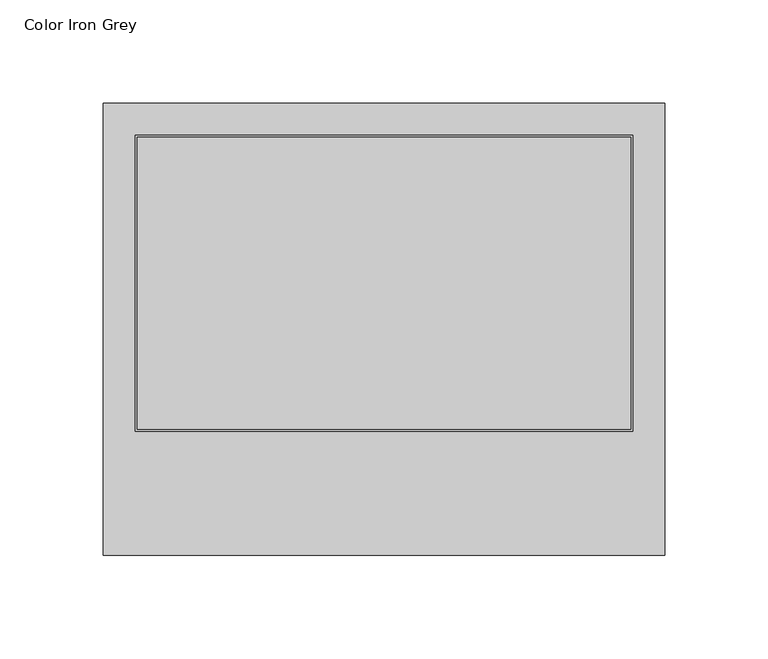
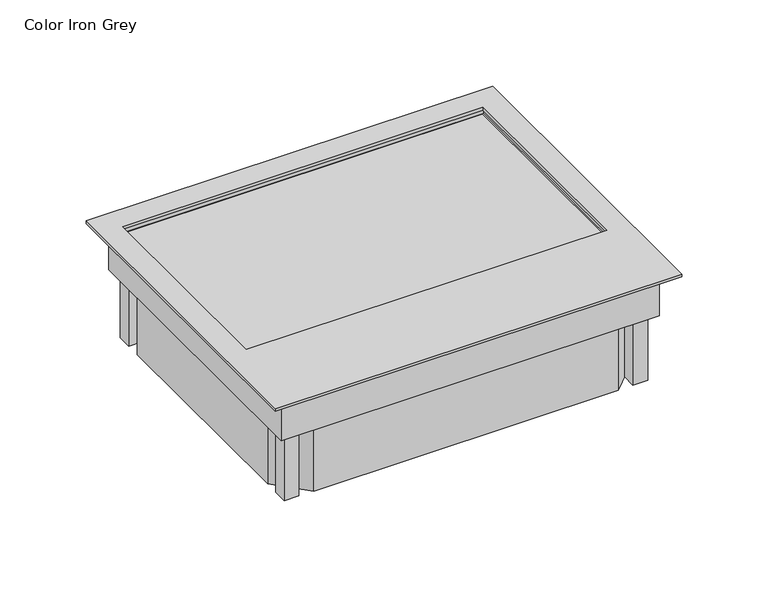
"""IFC4 building model written with IfcOpenShell, lengths in millimetres: proxy geometry, Electrical_Installation_Hager_VE-EE_Service-unit-VE09 : Color Iron Grey."""

from ifc_helpers import new_model, si_unit, frame, origin, place, context, project, spatial, polyline, outline, extrude, faceted_brep, source, transform, mapped, element, save


def color_iron_grey_09ea9520(model_context):
    return source(origin(), model_context, "Body", "SolidModel", [
        faceted_brep([(126.5, 100.0, -30.0), (126.5, -100.0, -30.0), (-126.5, -100.0, -30.0), (-126.5, 100.0, -30.0), (121.5, -85.25, -30.0), (121.5, 85.25, -30.0), (121.5, 95.0, -30.0), (111.75, 95.0, -30.0), (-111.75, 95.0, -30.0), (-121.5, 95.0, -30.0), (-121.5, 85.25, -30.0), (-121.5, -85.25, -30.0), (-121.5, -95.0, -30.0), (-111.75, -95.0, -30.0), (111.75, -95.0, -30.0), (121.5, -95.0, -30.0), (-126.5, 100.0, 0.0), (126.5, 100.0, 0.0), (-126.5, -100.0, 0.0), (126.5, -100.0, 0.0), (121.5, 95.0, 0.0), (121.5, 95.0, -30.0), (121.5, -95.0, -30.0), (121.5, -95.0, -3.0), (121.5, -50.0, -3.0), (121.5, -50.0, 0.0), (-121.5, -50.0, 0.0), (-121.5, -50.0, -3.0), (-121.5, 95.0, -30.0), (-121.5, 95.0, 0.0), (-121.5, -95.0, -3.0), (-121.5, -95.0, -30.0), (136.0, 109.5, 2.0), (-136.0, 109.5, 2.0), (-136.0, -109.5, 2.0), (136.0, -109.5, 2.0), (120.5000057, 94.0, 2.0), (120.5000057, -49.3000031, 2.0), (-120.5000057, -49.3000031, 2.0), (-120.5000057, 94.0, 2.0), (120.5000057, 94.0, 0.0), (-120.5000057, 94.0, 0.0), (-120.5000057, -49.3000031, 0.0), (120.5000057, -49.3000031, 0.0), (136.0, 109.5, 0.0), (136.0, -109.5, 0.0), (-136.0, -109.5, 0.0), (-136.0, 109.5, 0.0), (-111.75, 85.25, -30.0), (111.75, 85.25, -30.0), (-111.75, -85.25, -30.0), (111.75, -85.25, -30.0), (-111.75, 95.0, -77.0), (-111.75, 85.25, -77.0), (-121.5, 85.25, -77.0), (-121.5, 95.0, -77.0), (121.5, 95.0, -77.0), (121.5, 85.25, -77.0), (111.75, 85.25, -77.0), (111.75, 95.0, -77.0), (-111.75, -95.0, -77.0), (-121.5, -95.0, -77.0), (-121.5, -85.25, -77.0), (-111.75, -85.25, -77.0), (121.5, -95.0, -77.0), (111.75, -95.0, -77.0), (111.75, -85.25, -77.0), (121.5, -85.25, -77.0)], [[[0, 1, 2, 3], [4, 5, 6, 7, 8, 9, 10, 11, 12, 13, 14, 15]], [[0, 3, 16, 17]], [[3, 2, 18, 16]], [[2, 1, 19, 18]], [[1, 0, 17, 19]], [[20, 21, 5, 4, 22, 23, 24, 25]], [[26, 25, 24, 27]], [[28, 29, 26, 27, 30, 31, 11, 10]], [[21, 20, 29, 28, 8, 7]], [[24, 23, 30, 27]], [[30, 23, 22, 14, 13, 31]], [[32, 33, 34, 35], [36, 37, 38, 39]], [[20, 25, 26, 29], [40, 41, 42, 43]], [[44, 45, 46, 47], [17, 16, 18, 19]], [[36, 39, 41, 40]], [[39, 38, 42, 41]], [[38, 37, 43, 42]], [[37, 36, 40, 43]], [[33, 32, 44, 47]], [[34, 33, 47, 46]], [[35, 34, 46, 45]], [[32, 35, 45, 44]], [[10, 48, 8, 28]], [[7, 49, 5, 21]], [[13, 50, 11, 31]], [[4, 51, 14, 22]], [[52, 53, 54, 55]], [[56, 57, 58, 59]], [[60, 61, 62, 63]], [[64, 65, 66, 67]], [[52, 55, 9, 8]], [[55, 54, 10, 9]], [[48, 10, 54, 53]], [[8, 48, 53, 52]], [[56, 59, 7, 6]], [[49, 7, 59, 58]], [[5, 49, 58, 57]], [[57, 56, 6, 5]], [[50, 13, 60, 63]], [[11, 50, 63, 62]], [[62, 61, 12, 11]], [[61, 60, 13, 12]], [[64, 67, 4, 15]], [[51, 4, 67, 66]], [[14, 51, 66, 65]], [[65, 64, 15, 14]]]),
        extrude(outline(polyline([(-119.5, 93.0), (119.5, 93.0), (119.5, -48.3), (-119.5, -48.3), (-119.5, 93.0)])), frame((0.0, 0.0, -3.0), z_axis=(0.0, 0.0, 1.0), x_axis=(1.0, 0.0, 0.0)), (0.0, 0.0, 1.0), 1.0),
        extrude(outline(polyline([(-121.5, -75.5), (-121.5, 75.5), (-102.0, 95.0), (102.0, 95.0), (121.5, 75.5), (121.5, -75.5), (102.0, -95.0), (-102.0, -95.0), (-121.5, -75.5)]), holes=[polyline([(-116.5, -73.4289322), (-99.9289322, -90.0), (99.9289322, -90.0), (116.5, -73.4289322), (116.5, 73.4289322), (99.9289322, 90.0), (-99.9289322, 90.0), (-116.5, 73.4289322), (-116.5, -73.4289322)])]), frame((0.0, 0.0, -77.0), z_axis=(0.0, 0.0, 1.0), x_axis=(1.0, 0.0, 0.0)), (0.0, 0.0, 1.0), 47.0),
        extrude(outline(polyline([(-121.5, -95.0), (-121.5, 95.0), (121.5, 95.0), (121.5, -95.0), (-121.5, -95.0)])), frame((0.0, 0.0, -8.0), z_axis=(0.0, 0.0, 1.0), x_axis=(1.0, 0.0, 0.0)), (0.0, 0.0, 1.0), 5.0),
    ])


if __name__ == "__main__":
    model = new_model("IFC4")
    model_context = context("Model", 3, world=origin())
    ifc_project = project(units=[si_unit("LENGTHUNIT", "METRE", prefix="MILLI")], contexts=[model_context])
    site = spatial("IfcSite", under=ifc_project)
    building = spatial("IfcBuilding", under=site)
    placement = place(None, origin())
    color_iron_grey_shape = color_iron_grey_09ea9520(model_context)
    element("IfcBuildingElementProxy", 1, Name="Electrical_Installation_Hager_VE-EE_Service-unit-VE09 : Color Iron Grey", ObjectType="Electrical_Installation_Hager_VE-EE_Service-unit-VE09 : Color Iron Grey", at=placement, inside=building, context=model_context, shape_type="MappedRepresentation", body=[
        mapped(color_iron_grey_shape, transform((0.0, 0.0, 0.0), x_axis=(1.0, 0.0, 0.0), y_axis=(0.0, 1.0, 0.0), z_axis=(0.0, 0.0, 1.0))),
    ])
    save(model, "model.ifc")
